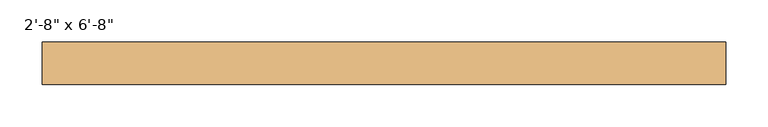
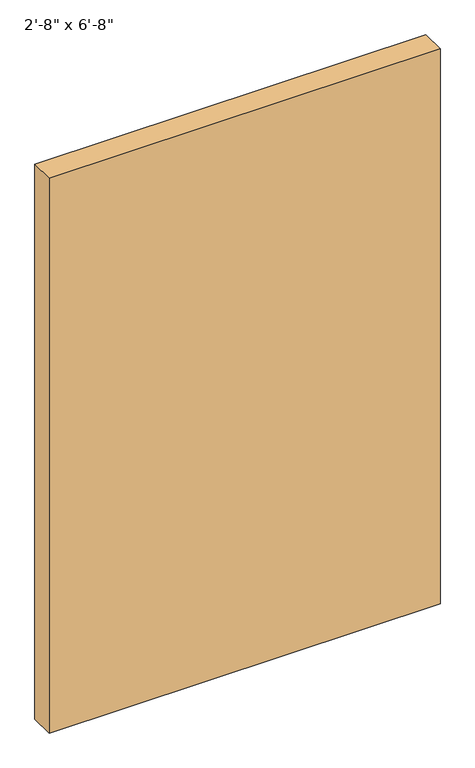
"""IFC4 building model written with IfcOpenShell, lengths in millimetres: door geometry."""

from ifc_helpers import new_model, si_unit, origin, origin_with_axes, place, context, project, spatial, polyline, outline, extrude, source, transform, mapped, element, save


def door_96be22bb(model_context):
    return source(origin(), model_context, "Body", "SweptSolid", [
        extrude(outline(polyline([(406.5, -6.15), (406.5, -57.15), (-406.5, -57.15), (-406.5, -6.15), (406.5, -6.15)])), origin_with_axes(), (0.0, 0.0, 1.0), 1219.2),
    ])


if __name__ == "__main__":
    model = new_model("IFC4")
    model_context = context("Model", 3, world=origin())
    ifc_project = project(units=[si_unit("LENGTHUNIT", "METRE", prefix="MILLI")], contexts=[model_context])
    site = spatial("IfcSite", under=ifc_project)
    building = spatial("IfcBuilding", under=site)
    placement = place(None, origin())
    door_shape = door_96be22bb(model_context)
    element("IfcDoor", 1, ObjectType="Planitar - Single Door_Flush Panel : 2'-8\" x 6'-8\"", at=placement, inside=building, context=model_context, shape_type="MappedRepresentation", body=[
        mapped(door_shape, transform((0.0, 0.0, 0.0), x_axis=(1.0, 0.0, 0.0), y_axis=(0.0, 1.0, 0.0), z_axis=(0.0, 0.0, 1.0))),
    ])
    save(model, "model.ifc")
